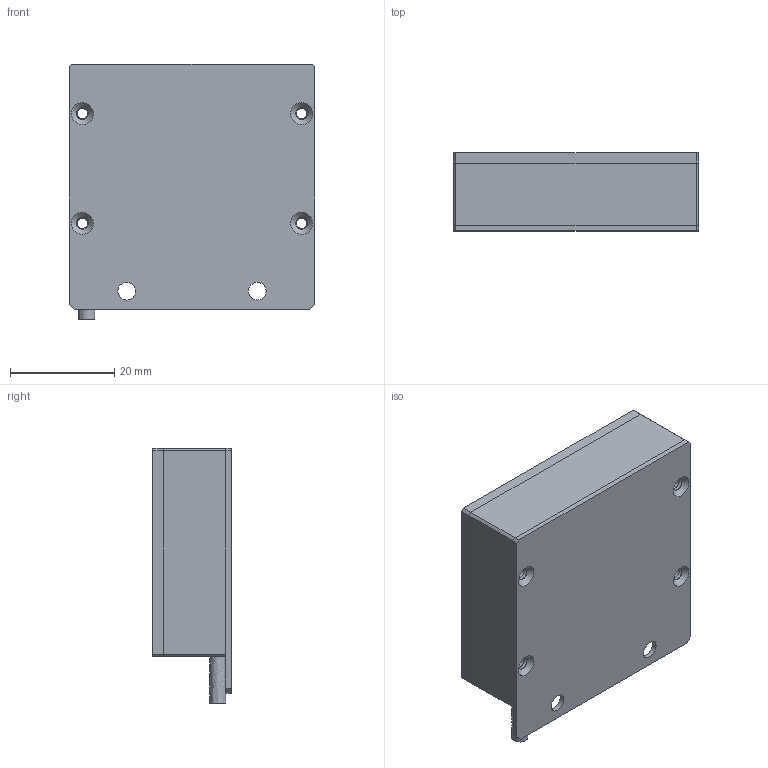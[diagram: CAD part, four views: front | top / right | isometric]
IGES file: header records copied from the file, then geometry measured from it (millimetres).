
Global section: file name: 153-00758_LF 36 xD-24-KFL5; native system: Autodesk Inventor 2018; preprocessor: unknown; author: ss; date: 20180725.095655; units: millimetre
Bounding box: 47 x 15 x 49 mm (x, y, z)
Volume: 12530.4 mm3; surface area: 12087.6 mm2
Topology: 2 solids, 2 shells, 92 faces, 261 edges, 180 vertices
Faces by surface type: bspline 92
